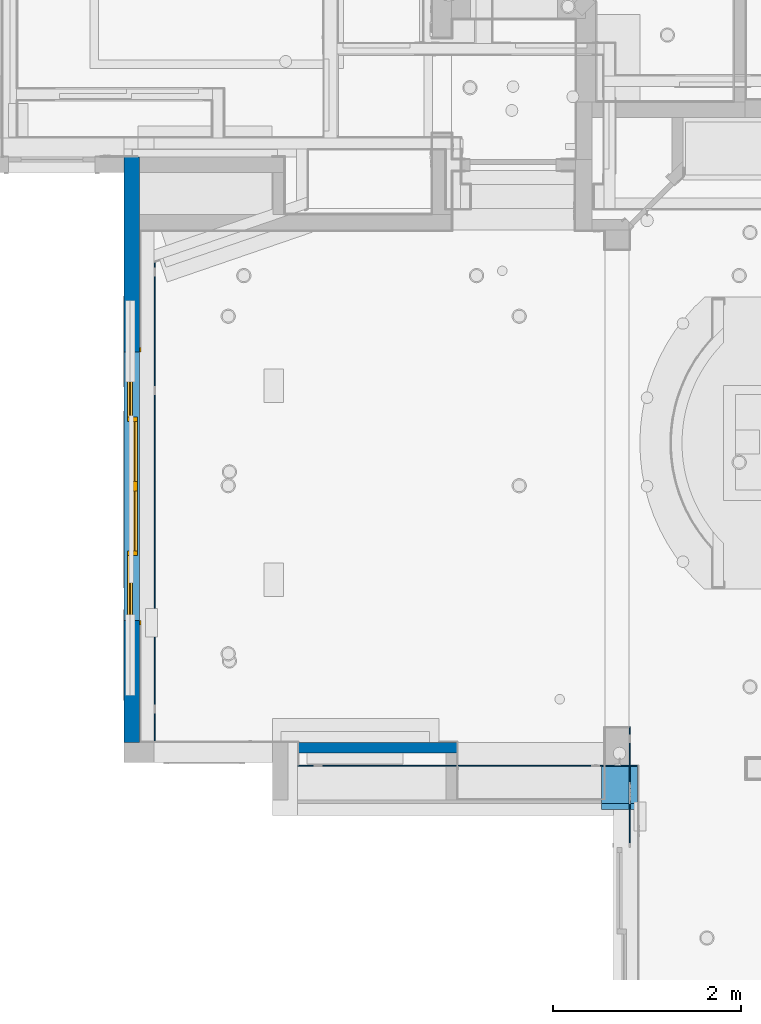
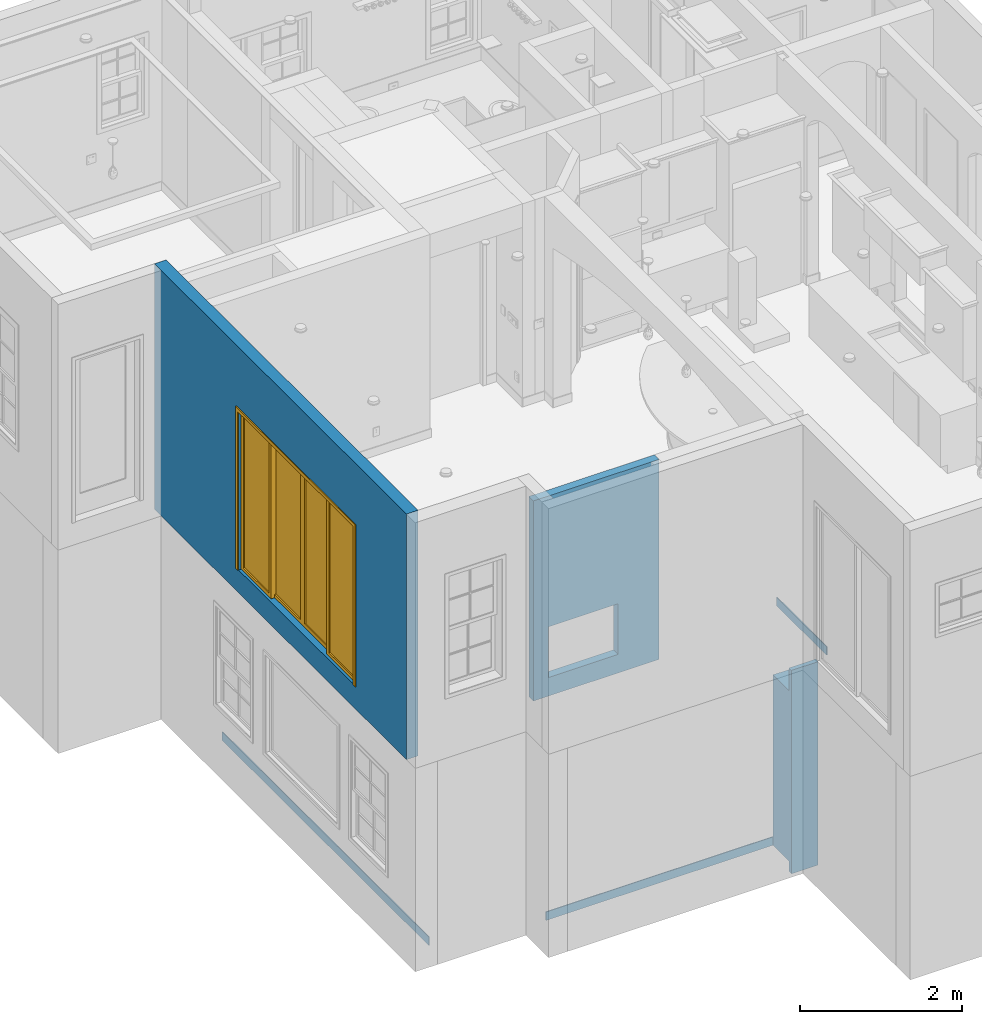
# One storey, part 2 of 81: 6 walls, 1 door, 2 openings.
"""IFC2X3 building model written with IfcOpenShell, lengths in feet."""

from ifc_helpers import new_model, entity, si_unit, converted_unit, derived_unit, direction, frame, frame_2d, origin, origin_2d_with_axis, place, context, subcontext, project, spatial, polyline, rectangle, outline, extrude, clip, bounded_halfspace, source, transform, mapped, material, material_list, layer, layer_set, layer_usage, type_object, type_shapes, element, fill, save


model = new_model("IFC2X3")

# Units and contexts
model_context = context("Model", 3, precision=0.0001, world=origin(), true_north=direction((6.12303176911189e-17, 1.0)))
body_context = subcontext(model_context, "Body", "Model", "MODEL_VIEW")
ifc_project = project(units=[converted_unit("LENGTHUNIT", "FOOT", entity("IfcRatioMeasure", 0.3048), si_unit("LENGTHUNIT", "METRE"), dimensions=[1, 0, 0, 0, 0, 0, 0]), converted_unit("AREAUNIT", "SQUARE FOOT", entity("IfcRatioMeasure", 0.09290304), si_unit("AREAUNIT", "SQUARE_METRE"), dimensions=[2, 0, 0, 0, 0, 0, 0]), converted_unit("VOLUMEUNIT", "CUBIC FOOT", entity("IfcRatioMeasure", 0.028316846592), si_unit("VOLUMEUNIT", "CUBIC_METRE"), dimensions=[3, 0, 0, 0, 0, 0, 0]), converted_unit("PLANEANGLEUNIT", "DEGREE", entity("IfcRatioMeasure", 0.0174532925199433), si_unit("PLANEANGLEUNIT", "RADIAN"), dimensions=[0, 0, 0, 0, 0, 0, 0]), si_unit("MASSUNIT", "GRAM", prefix="KILO"), derived_unit("MASSDENSITYUNIT", [(si_unit("MASSUNIT", "GRAM", prefix="KILO"), 1), (si_unit("LENGTHUNIT", "METRE"), -3)]), derived_unit("MOMENTOFINERTIAUNIT", [(si_unit("LENGTHUNIT", "METRE"), 4)]), si_unit("TIMEUNIT", "SECOND"), si_unit("FREQUENCYUNIT", "HERTZ"), si_unit("THERMODYNAMICTEMPERATUREUNIT", "DEGREE_CELSIUS"), derived_unit("THERMALTRANSMITTANCEUNIT", [(si_unit("MASSUNIT", "GRAM", prefix="KILO"), 1), (si_unit("THERMODYNAMICTEMPERATUREUNIT", "KELVIN"), -1), (si_unit("TIMEUNIT", "SECOND"), -3)]), derived_unit("VOLUMETRICFLOWRATEUNIT", [(si_unit("LENGTHUNIT", "METRE"), 3), (si_unit("TIMEUNIT", "SECOND"), -1)]), si_unit("ELECTRICCURRENTUNIT", "AMPERE"), si_unit("ELECTRICVOLTAGEUNIT", "VOLT"), si_unit("POWERUNIT", "WATT"), si_unit("FORCEUNIT", "NEWTON"), si_unit("ILLUMINANCEUNIT", "LUX"), si_unit("LUMINOUSFLUXUNIT", "LUMEN"), si_unit("LUMINOUSINTENSITYUNIT", "CANDELA"), derived_unit("USERDEFINED", [(si_unit("MASSUNIT", "GRAM", prefix="KILO"), -1), (si_unit("LENGTHUNIT", "METRE"), -2), (si_unit("TIMEUNIT", "SECOND"), 3), (si_unit("LUMINOUSFLUXUNIT", "LUMEN"), 1)]), derived_unit("LINEARVELOCITYUNIT", [(si_unit("LENGTHUNIT", "METRE"), 1), (si_unit("TIMEUNIT", "SECOND"), -1)]), si_unit("PRESSUREUNIT", "PASCAL"), derived_unit("USERDEFINED", [(si_unit("LENGTHUNIT", "METRE"), -2), (si_unit("MASSUNIT", "GRAM", prefix="KILO"), 1), (si_unit("TIMEUNIT", "SECOND"), -2)]), derived_unit("LINEARFORCEUNIT", [(si_unit("MASSUNIT", "GRAM", prefix="KILO"), 1), (si_unit("LENGTHUNIT", "METRE"), 1), (si_unit("TIMEUNIT", "SECOND"), -2), (si_unit("LENGTHUNIT", "METRE"), -1)]), derived_unit("PLANARFORCEUNIT", [(si_unit("MASSUNIT", "GRAM", prefix="KILO"), 1), (si_unit("LENGTHUNIT", "METRE"), 1), (si_unit("TIMEUNIT", "SECOND"), -2), (si_unit("LENGTHUNIT", "METRE"), -2)])], contexts=[model_context])

# Site, building, storey
site_placement = place(None, origin())
site = spatial("IfcSite", under=ifc_project, at=site_placement, Name="Default", CompositionType="ELEMENT")
building_placement = place(site_placement, origin())
building = spatial("IfcBuilding", under=site, at=building_placement, CompositionType="ELEMENT")
storey_placement = place(building_placement, origin())
storey = spatial("IfcBuildingStorey", under=building, at=storey_placement, Name="First floor", CompositionType="ELEMENT", Elevation=0.0)

# Wall, opening, door
ifc_material_1 = material(Name="Default New Material")
ifc_layer_1 = layer(ifc_material_1, 0.541666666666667)
ifc_layer_set_1 = layer_set([ifc_layer_1], Name="Basic Wall:Wall_6.5\"")
ifc_layer_usage_1 = layer_usage(ifc_layer_set_1, "AXIS2", "NEGATIVE", 0.270833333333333)
wall_type_1 = type_object("IfcWallType", Name="Basic Wall:Wall_6.5\"", PredefinedType="STANDARD", material=ifc_layer_set_1)
wall_1_placement = place(storey_placement, frame((-16.7708333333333, 11.2083333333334, 9.54166666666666), z_axis=(0.0, 0.0, 1.0), x_axis=(0.0, 1.0, 0.0)))
wall_1 = element("IfcWallStandardCase", 1, at=wall_1_placement, inside=storey, type_object=wall_type_1, material=ifc_layer_usage_1, Name="Basic Wall:Wall_6.5\"", ObjectType="Basic Wall:Wall_6.5\"", context=body_context, shape_type="SweptSolid", body=[
    extrude(rectangle(XDim=20.375, YDim=0.541666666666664, at=frame_2d((10.1875, 0.0), x_axis=(-1.0, 0.0))), origin(), (0.0, 0.0, 1.0), 12.125),
])
opening_1_placement = place(wall_1_placement, frame((4.24999999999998, -0.270833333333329, 1.125)))
opening_1 = element("IfcOpeningElement", 2, at=opening_1_placement, cuts=wall_1, Name="Door_3:9'-4\" X 7'-10\":1", ObjectType="Opening", context=body_context, shape_type="SweptSolid", body=[
    extrude(rectangle(XDim=7.83333333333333, YDim=9.33333333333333, at=frame_2d((3.91666666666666, 4.66666666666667), x_axis=(-1.0, 0.0))), frame((0.0, 0.0, 0.0), z_axis=(0.0, 1.0, 0.0), x_axis=(0.0, 0.0, 1.0)), (0.0, 0.0, 1.0), 0.541666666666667),
])
ifc_material_2 = material(Name="Glass")
ifc_material_list_1 = material_list([ifc_material_1, ifc_material_2])
ifc_material_list_2 = material_list([ifc_material_1, ifc_material_1, ifc_material_2])
door_style = type_object("IfcDoorStyle", Name="Door_3:9'-4\" X 7'-10\"", ConstructionType="NOTDEFINED", OperationType="NOTDEFINED", ParameterTakesPrecedence=False, Sizeable=False, material=ifc_material_list_2)
shared_shape = source(origin(), body_context, "Body", "SweptSolid", [
    extrude(outline(polyline([(-4.66666666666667, -3.875), (-4.66666666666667, 3.95833333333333), (-4.83333333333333, 3.95833333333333), (-4.83333333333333, -4.04166666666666), (4.83333333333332, -4.04166666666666), (4.83333333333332, 3.95833333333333), (4.66666666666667, 3.95833333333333), (4.66666666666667, -3.875), (-4.66666666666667, -3.875)])), frame((4.66666666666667, 0.541666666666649, 3.95833333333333), z_axis=(0.0, -1.0, 0.0), x_axis=(-1.0, 0.0, 0.0)), (0.0, 0.0, -1.0), 0.0416666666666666),
    extrude(outline(polyline([(-3.95833333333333, -4.66666666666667), (-3.95833333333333, -4.83333333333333), (4.04166666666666, -4.83333333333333), (4.04166666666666, 4.83333333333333), (-3.95833333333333, 4.83333333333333), (-3.95833333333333, 4.66666666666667), (3.875, 4.66666666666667), (3.875, -4.66666666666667), (-3.95833333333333, -4.66666666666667)])), frame((4.66666666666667, -0.0416666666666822, 3.95833333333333), z_axis=(0.0, -1.0, 0.0), x_axis=(0.0, 0.0, 1.0)), (0.0, 0.0, -1.0), 0.0416666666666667),
    extrude(rectangle(XDim=0.0328776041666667, YDim=2.08333333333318, at=frame_2d((2.77555756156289e-17, 2.22044604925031e-16), x_axis=(1.0, 0.0))), frame((3.45833333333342, 0.171061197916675, 0.166666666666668), z_axis=(0.0, 0.0, 1.0), x_axis=(0.0, -1.0, 0.0)), (0.0, 0.0, 1.0), 7.49999999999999),
    extrude(outline(polyline([(-1.20833333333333, -3.91666666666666), (1.20833333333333, -3.91666666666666), (1.20833333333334, 3.91666666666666), (-1.20833333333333, 3.91666666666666), (-1.20833333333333, -3.91666666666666)]), holes=[polyline([(-1.04166666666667, 3.75), (1.04166666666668, 3.75), (1.04166666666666, -3.75), (-1.04166666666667, -3.75), (-1.04166666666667, 3.75)])]), frame((3.45833333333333, 0.0833333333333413, 3.91666666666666), z_axis=(0.0, 1.0, 0.0), x_axis=(1.0, 0.0, 0.0)), (0.0, 0.0, 1.0), 0.166666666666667),
    extrude(rectangle(XDim=0.0328776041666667, YDim=2.0833333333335, at=frame_2d((-2.77555756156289e-17, -2.22044604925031e-16), x_axis=(1.0, 0.0))), frame((1.20833333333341, 0.337727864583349, 0.166666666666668), z_axis=(0.0, 0.0, 1.0), x_axis=(0.0, -1.0, 0.0)), (0.0, 0.0, 1.0), 7.49999999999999),
    extrude(outline(polyline([(-1.20833333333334, -3.91666666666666), (1.20833333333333, -3.91666666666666), (1.20833333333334, 3.91666666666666), (-1.20833333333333, 3.91666666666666), (-1.20833333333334, -3.91666666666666)]), holes=[polyline([(1.04166666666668, 3.75), (1.04166666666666, -3.75), (-1.04166666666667, -3.75), (-1.04166666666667, 3.75), (1.04166666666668, 3.75)])]), frame((1.20833333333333, 0.250000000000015, 3.91666666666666), z_axis=(0.0, 1.0, 0.0), x_axis=(1.0, 0.0, 0.0)), (0.0, 0.0, 1.0), 0.166666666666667),
    extrude(rectangle(XDim=0.0328776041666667, YDim=2.08333333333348, at=origin_2d_with_axis()), frame((5.87500000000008, 0.171061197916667, 0.166666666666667), z_axis=(0.0, 0.0, 1.0), x_axis=(0.0, -1.0, 0.0)), (0.0, 0.0, 1.0), 7.49999999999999),
    extrude(outline(polyline([(-1.20833333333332, -3.91666666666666), (1.20833333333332, -3.91666666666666), (1.20833333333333, 3.91666666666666), (-1.20833333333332, 3.91666666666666), (-1.20833333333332, -3.91666666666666)]), holes=[polyline([(1.04166666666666, 3.75), (1.04166666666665, -3.75), (-1.04166666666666, -3.75), (-1.04166666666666, 3.75), (1.04166666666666, 3.75)])]), frame((5.875, 0.0833333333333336, 3.91666666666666), z_axis=(0.0, 1.0, 0.0), x_axis=(1.0, 0.0, 0.0)), (0.0, 0.0, 1.0), 0.166666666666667),
    extrude(rectangle(XDim=0.0328776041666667, YDim=2.0833333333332, at=frame_2d((2.77555756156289e-17, 2.22044604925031e-16), x_axis=(1.0, 0.0))), frame((8.12500000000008, 0.337727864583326, 0.166666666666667), z_axis=(0.0, 0.0, 1.0), x_axis=(0.0, -1.0, 0.0)), (0.0, 0.0, 1.0), 7.49999999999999),
    extrude(outline(polyline([(-1.20833333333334, -3.91666666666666), (1.20833333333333, -3.91666666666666), (1.20833333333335, 3.91666666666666), (-1.20833333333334, 3.91666666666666), (-1.20833333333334, -3.91666666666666)]), holes=[polyline([(-1.04166666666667, 3.75), (1.04166666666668, 3.75), (1.04166666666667, -3.75), (-1.04166666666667, -3.75), (-1.04166666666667, 3.75)])]), frame((8.125, 0.249999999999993, 3.91666666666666), z_axis=(0.0, 1.0, 0.0), x_axis=(1.0, 0.0, 0.0)), (0.0, 0.0, 1.0), 0.166666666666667),
])
type_shapes(door_style, [shared_shape])
door_placement = place(opening_1_placement, origin())
door = element("IfcDoor", 3, at=door_placement, inside=storey, type_object=door_style, material=ifc_material_list_1, Name="Door_3:9'-4\" X 7'-10\"", ObjectType="Door_3:9'-4\" X 7'-10\"", OverallHeight=7.83333333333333, OverallWidth=9.33333333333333, context=body_context, shape_type="MappedRepresentation", body=[
    mapped(shared_shape, transform((0.0, 0.0, 0.0), scale=1.0)),
])
fill(opening_1, door)

# Wall, opening
ifc_layer_2 = layer(ifc_material_1, 0.375)
ifc_layer_set_2 = layer_set([ifc_layer_2], Name="Basic Wall:Wall_4.5\"")
ifc_layer_usage_2 = layer_usage(ifc_layer_set_2, "AXIS2", "NEGATIVE", 0.1875)
wall_type_2 = type_object("IfcWallType", Name="Basic Wall:Wall_4.5\"", PredefinedType="STANDARD", material=ifc_layer_set_2)
wall_2_placement = place(storey_placement, frame((-11.3333333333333, 11.0208333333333, 10.6666666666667)))
wall_2 = element("IfcWallStandardCase", 4, at=wall_2_placement, inside=storey, type_object=wall_type_2, material=ifc_layer_usage_2, Name="Basic Wall:Wall_4.5\"", ObjectType="Basic Wall:Wall_4.5\"", context=body_context, shape_type="Clipping", body=[
    clip(extrude(rectangle(XDim=5.87500000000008, YDim=0.375, at=frame_2d((2.93750000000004, -2.77555756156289e-16), x_axis=(-1.0, 0.0))), origin(), (0.0, 0.0, 1.0), 9.875), bounded_halfspace(frame((0.0, -0.1875, 9.875), z_axis=(0.0, 0.0, -1.0), x_axis=(-1.0, 0.0, 0.0)), True, frame((0.0, -0.1875, 9.875), z_axis=(0.0, 0.0, -1.0), x_axis=(-1.0, 0.0, 0.0)), polyline([(0.0, 0.0), (0.0, 0.375), (-5.87500000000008, 0.375000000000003), (-5.87500000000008, 0.0), (0.0, 0.0)]))),
])
opening_2_placement = place(wall_2_placement, origin())
element("IfcOpeningElement", 5, at=opening_2_placement, cuts=wall_2, Name="Basic Wall:Wall_4.5\"", ObjectType="Opening", context=body_context, shape_type="SweptSolid", body=[
    extrude(rectangle(XDim=2.5, YDim=3.25, at=frame_2d((8.88178419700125e-16, 0.0), x_axis=(0.0, 1.0))), frame((2.33333333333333, -1.08333333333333, 2.16666666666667), z_axis=(0.0, 1.0, 0.0), x_axis=(-1.0, 0.0, 0.0)), (0.0, 0.0, 1.0), 1.27083333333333),
])

# Walls
ifc_layer_3 = layer(ifc_material_1, 1.25)
ifc_layer_set_3 = layer_set([ifc_layer_3], Name="Basic Wall:Wall_1'3\"")
ifc_layer_usage_3 = layer_usage(ifc_layer_set_3, "AXIS2", "NEGATIVE", 0.625)
wall_type_3 = type_object("IfcWallType", Name="Basic Wall:Wall_1'3\"", PredefinedType="STANDARD", material=ifc_layer_set_3)
wall_3_placement = place(storey_placement, frame((0.2083333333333, 10.375, -0.5), z_axis=(0.0, 0.0, 1.0), x_axis=(0.0, -1.0, 0.0)))
element("IfcWallStandardCase", 6, at=wall_3_placement, inside=storey, type_object=wall_type_3, material=ifc_layer_usage_3, Name="Basic Wall:Wall_1'3\"", ObjectType="Basic Wall:Wall_1'3\"", context=body_context, shape_type="Clipping", body=[
    clip(clip(clip(clip(extrude(rectangle(XDim=1.5, YDim=1.25, at=frame_2d((0.750000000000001, 0.0), x_axis=(-1.0, 0.0))), origin(), (0.0, 0.0, 1.0), 10.0416666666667), bounded_halfspace(frame((1.29166666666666, 0.625000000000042, 0.5)), True, frame((1.29166666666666, 0.625000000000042, 0.5)), polyline([(0.0, 0.0), (-1.29166666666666, 0.0), (-1.29166666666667, -1.25000000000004), (0.0, -1.25000000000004), (0.0, 0.0)]))), bounded_halfspace(frame((1.29166666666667, -0.625000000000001, 0.5), z_axis=(1.0, 0.0, 0.0), x_axis=(0.0, 0.0, 1.0)), True, frame((1.29166666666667, -0.625000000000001, 0.5), z_axis=(1.0, 0.0, 0.0), x_axis=(0.0, 0.0, 1.0)), polyline([(0.0, 0.0), (-0.5, 0.0), (-0.5, -1.25), (0.0, -1.25000000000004), (0.0, 0.0)]))), bounded_halfspace(frame((1.29166666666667, -0.625000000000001, 8.91666666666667), z_axis=(0.0, 0.0, -1.0), x_axis=(1.0, 0.0, 0.0)), True, frame((1.29166666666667, -0.625000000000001, 8.91666666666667), z_axis=(0.0, 0.0, -1.0), x_axis=(1.0, 0.0, 0.0)), polyline([(0.0, 0.0), (-1.29166666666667, 0.0), (-1.29166666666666, -1.25000000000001), (0.0, -1.25005776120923), (0.0, 0.0)]))), bounded_halfspace(frame((1.29166666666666, 0.625057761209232, 8.91666666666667), z_axis=(1.0, 0.0, 0.0), x_axis=(0.0, 0.0, -1.0)), True, frame((1.29166666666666, 0.625057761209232, 8.91666666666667), z_axis=(1.0, 0.0, 0.0), x_axis=(0.0, 0.0, -1.0)), polyline([(0.0, 0.0), (-1.125, -5.77612092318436e-05), (-1.125, -1.25005776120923), (0.0, -1.25005776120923), (0.0, 0.0)]))),
])
ifc_layer_4 = layer(ifc_material_1, 0.0416666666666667)
ifc_layer_set_4 = layer_set([ifc_layer_4], Name="Basic Wall:Wall Border_T1")
ifc_layer_usage_4 = layer_usage(ifc_layer_set_4, "AXIS2", "NEGATIVE", 0.0208333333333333)
wall_type_4 = type_object("IfcWallType", Name="Basic Wall:Wall Border_T1", PredefinedType="STANDARD", material=ifc_layer_set_4)
wall_4_placement = place(storey_placement, frame((0.833333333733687, 10.395833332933, 0.0), z_axis=(0.0, 0.0, 1.0), x_axis=(-1.0, 0.0, 0.0)))
element("IfcWallStandardCase", 7, at=wall_4_placement, inside=storey, type_object=wall_type_4, material=ifc_layer_usage_4, Name="Basic Wall:Wall Border_T1", ObjectType="Basic Wall:Wall Border_T1", context=body_context, shape_type="Clipping", body=[
    clip(extrude(rectangle(XDim=11.8333333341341, YDim=0.0416666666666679, at=frame_2d((5.91666666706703, 0.0), x_axis=(-1.0, 0.0))), origin(), (0.0, 0.0, 1.0), 0.416666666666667), bounded_halfspace(frame((0.0, -0.0208333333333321, 0.0), z_axis=(1.0, 0.0, 0.0), x_axis=(0.0, 1.0, 0.0)), True, frame((0.0, -0.0208333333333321, 0.0), z_axis=(1.0, 0.0, 0.0), x_axis=(0.0, 1.0, 0.0)), polyline([(0.0, 0.0), (0.0416666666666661, 0.0), (0.0416666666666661, 0.416666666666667), (0.0, 0.416666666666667), (0.0, 0.0)]))),
])
ifc_layer_usage_5 = layer_usage(ifc_layer_set_4, "AXIS2", "NEGATIVE", 0.0208333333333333)
wall_5_placement = place(storey_placement, frame((-15.9791666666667, 27.9285965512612, 0.0), z_axis=(0.0, 0.0, 1.0), x_axis=(0.0, -1.0, 0.0)))
element("IfcWallStandardCase", 8, at=wall_5_placement, inside=storey, type_object=wall_type_4, material=ifc_layer_usage_5, Name="Basic Wall:Wall Border_T1", ObjectType="Basic Wall:Wall Border_T1", context=body_context, shape_type="Clipping", body=[
    clip(extrude(rectangle(XDim=16.7202632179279, YDim=0.0416666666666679, at=frame_2d((8.36013160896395, -2.60208521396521e-17), x_axis=(-1.0, 0.0))), origin(), (0.0, 0.0, 1.0), 0.416666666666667), bounded_halfspace(frame((0.0143229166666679, -0.0208333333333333, 0.0), z_axis=(0.945686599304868, 0.325079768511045, 0.0), x_axis=(-0.325079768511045, 0.945686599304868, 0.0)), True, frame((0.0143229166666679, -0.0208333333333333, 0.0), z_axis=(0.945686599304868, 0.325079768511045, 0.0), x_axis=(-0.325079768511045, 0.945686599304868, 0.0)), polyline([(0.0, 0.0), (0.044059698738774, 0.0), (0.044059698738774, 0.416666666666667), (0.0, 0.416666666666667), (0.0, 0.0)]))),
])
ifc_layer_usage_6 = layer_usage(ifc_layer_set_4, "AXIS2", "NEGATIVE", 0.0208333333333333)
wall_6_placement = place(storey_placement, frame((0.562500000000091, 7.70833333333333, 10.6666666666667), z_axis=(0.0, 0.0, 1.0), x_axis=(0.0, 1.0, 0.0)))
element("IfcWallStandardCase", 9, at=wall_6_placement, inside=storey, type_object=wall_type_4, material=ifc_layer_usage_6, Name="Basic Wall:Wall Border_T1", ObjectType="Basic Wall:Wall Border_T1", context=body_context, shape_type="SweptSolid", body=[
    extrude(rectangle(XDim=4.04166666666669, YDim=0.0416666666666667, at=frame_2d((2.02083333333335, 5.20417042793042e-17), x_axis=(-1.0, 0.0))), origin(), (0.0, 0.0, 1.0), 0.416666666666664),
])

save(model, "model.ifc")
